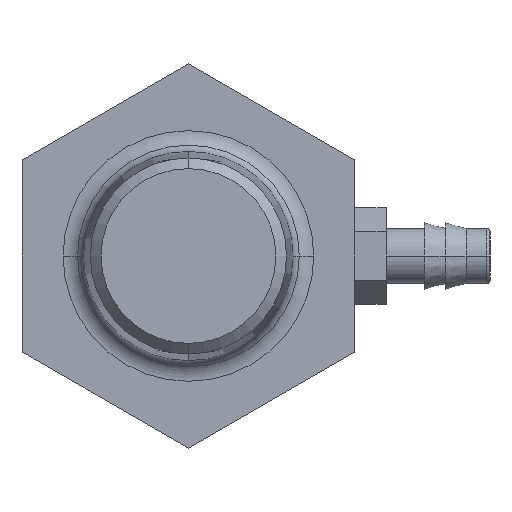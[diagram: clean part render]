
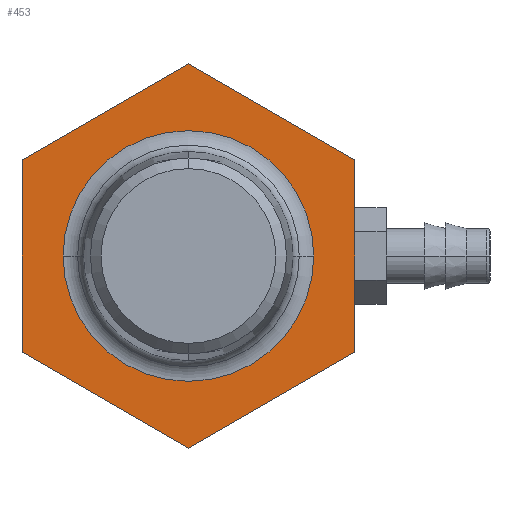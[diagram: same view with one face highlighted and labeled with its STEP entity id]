
A CAD part, left-side view. The second image highlights one B-rep face of the part: STEP entity #453.
In plain terms, the highlighted planar face has unit normal (-1, 0, 0).
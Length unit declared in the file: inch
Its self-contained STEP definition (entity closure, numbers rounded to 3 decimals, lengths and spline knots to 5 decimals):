
#203=DIRECTION('',(0.,0.866,-0.5));
#204=VECTOR('',#203,0.57735);
#205=CARTESIAN_POINT('',(-2.75,0.,0.57735));
#206=LINE('',#205,#204);
#207=DIRECTION('',(0.,0.866,0.5));
#208=VECTOR('',#207,0.57735);
#209=CARTESIAN_POINT('',(-2.75,-0.5,0.28868));
#210=LINE('',#209,#208);
#211=DIRECTION('',(0.,0.,1.));
#212=VECTOR('',#211,0.57735);
#213=CARTESIAN_POINT('',(-2.75,-0.5,-0.28868));
#214=LINE('',#213,#212);
#215=DIRECTION('',(0.,-0.866,0.5));
#216=VECTOR('',#215,0.57735);
#217=CARTESIAN_POINT('',(-2.75,0.,-0.57735));
#218=LINE('',#217,#216);
#219=DIRECTION('',(0.,-0.866,-0.5));
#220=VECTOR('',#219,0.57735);
#221=CARTESIAN_POINT('',(-2.75,0.5,-0.28868));
#222=LINE('',#221,#220);
#223=DIRECTION('',(0.,0.,-1.));
#224=VECTOR('',#223,0.57735);
#225=CARTESIAN_POINT('',(-2.75,0.5,0.28868));
#226=LINE('',#225,#224);
#227=CARTESIAN_POINT('',(-2.75,0.,0.));
#228=DIRECTION('',(1.,0.,0.));
#229=DIRECTION('',(0.,0.,1.));
#230=AXIS2_PLACEMENT_3D('',#227,#228,#229);
#232=CARTESIAN_POINT('',(-2.75,0.,0.));
#233=DIRECTION('',(1.,0.,0.));
#234=DIRECTION('',(0.,1.,0.));
#235=AXIS2_PLACEMENT_3D('',#232,#233,#234);
#237=CARTESIAN_POINT('',(-2.75,0.,0.));
#238=DIRECTION('',(1.,0.,0.));
#239=DIRECTION('',(0.,-1.,0.));
#240=AXIS2_PLACEMENT_3D('',#237,#238,#239);
#376=CARTESIAN_POINT('',(-2.75,0.,0.57735));
#377=CARTESIAN_POINT('',(-2.75,0.5,0.28868));
#378=VERTEX_POINT('',#376);
#379=VERTEX_POINT('',#377);
#384=CARTESIAN_POINT('',(-2.75,0.5,-0.28868));
#385=VERTEX_POINT('',#384);
#386=CARTESIAN_POINT('',(-2.75,-0.5,0.28868));
#387=VERTEX_POINT('',#386);
#390=CARTESIAN_POINT('',(-2.75,0.,-0.57735));
#391=VERTEX_POINT('',#390);
#392=CARTESIAN_POINT('',(-2.75,-0.5,-0.28868));
#393=VERTEX_POINT('',#392);
#408=CARTESIAN_POINT('',(-2.75,0.37658,0.));
#409=VERTEX_POINT('',#408);
#410=CARTESIAN_POINT('',(-2.75,-0.37658,0.));
#411=VERTEX_POINT('',#410);
#412=CARTESIAN_POINT('',(-2.75,0.,0.37658));
#413=VERTEX_POINT('',#412);
#426=CARTESIAN_POINT('',(-2.75,0.,0.));
#427=DIRECTION('',(-1.,0.,0.));
#428=DIRECTION('',(0.,0.,1.));
#429=AXIS2_PLACEMENT_3D('',#426,#427,#428);
#430=PLANE('',#429);
#432=ORIENTED_EDGE('',*,*,#431,.F.);
#434=ORIENTED_EDGE('',*,*,#433,.F.);
#436=ORIENTED_EDGE('',*,*,#435,.F.);
#438=ORIENTED_EDGE('',*,*,#437,.F.);
#440=ORIENTED_EDGE('',*,*,#439,.F.);
#442=ORIENTED_EDGE('',*,*,#441,.F.);
#443=EDGE_LOOP('',(#432,#434,#436,#438,#440,#442));
#444=FACE_OUTER_BOUND('',#443,.F.);
#446=ORIENTED_EDGE('',*,*,#445,.F.);
#448=ORIENTED_EDGE('',*,*,#447,.F.);
#450=ORIENTED_EDGE('',*,*,#449,.F.);
#451=EDGE_LOOP('',(#446,#448,#450));
#452=FACE_BOUND('',#451,.F.);
#231=CIRCLE('',#230,0.37658);
#236=CIRCLE('',#235,0.37658);
#241=CIRCLE('',#240,0.37658);
#431=EDGE_CURVE('',#378,#379,#206,.T.);
#433=EDGE_CURVE('',#387,#378,#210,.T.);
#435=EDGE_CURVE('',#393,#387,#214,.T.);
#437=EDGE_CURVE('',#391,#393,#218,.T.);
#439=EDGE_CURVE('',#385,#391,#222,.T.);
#441=EDGE_CURVE('',#379,#385,#226,.T.);
#445=EDGE_CURVE('',#413,#411,#231,.T.);
#447=EDGE_CURVE('',#409,#413,#236,.T.);
#449=EDGE_CURVE('',#411,#409,#241,.T.);
#453=ADVANCED_FACE('',(#444,#452),#430,.T.);
